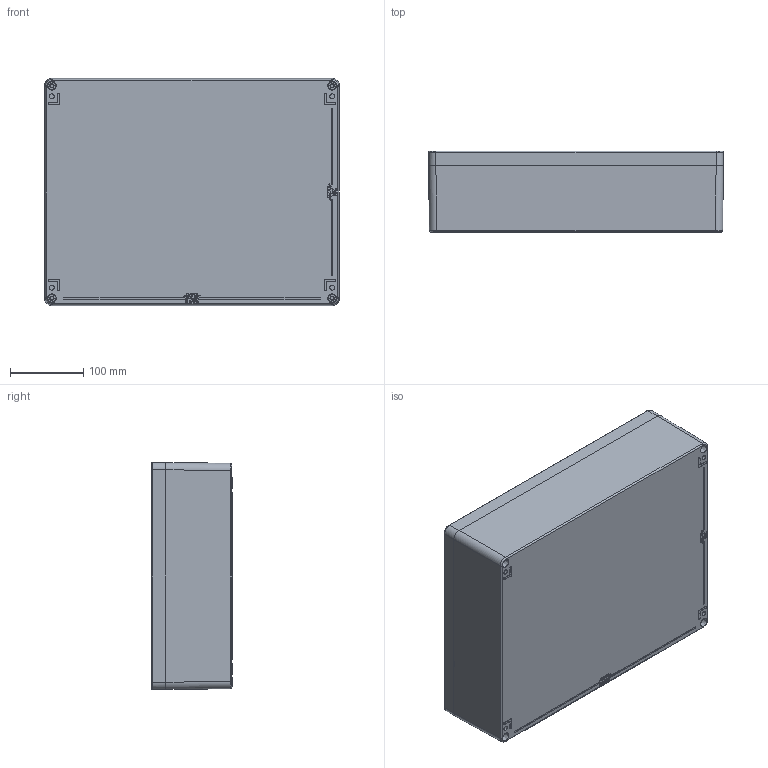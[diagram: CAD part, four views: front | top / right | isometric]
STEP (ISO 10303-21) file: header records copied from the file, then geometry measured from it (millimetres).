
FILE_DESCRIPTION((''),'2;1');
FILE_NAME('1450950000_ASM','2024-02-27T11:32:27',('Stephanie.Hoppe'),(''),'CREO PARAMETRIC BY PTC INC, 2022124','CREO PARAMETRIC BY PTC INC, 2022124','');
FILE_SCHEMA(('AUTOMOTIVE_DESIGN { 1 0 10303 214 1 1 1 1 }'));
Products named in the file (11): 9301050000_AF0; 9261018000; 9601349000_ASM; 9601618000_ASM; 9302050000_AF0; 9261116000; 9611158000_ASM; DICHTUNG_CA450_460; 9611365000_ASM; 9261021000; 1450950000_ASM
Assembly tree (16 placements, depth 4):
  1450950000_ASM
    9601618000_ASM
      9601349000_ASM
        9301050000_AF0
        9261018000  x4
    9611365000_ASM
      9611158000_ASM
        9302050000_AF0
        9261116000
      DICHTUNG_CA450_460
    9261021000  x4
Bounding box: 402.35 x 110.9 x 309.85 mm (x, y, z)
Volume: 2089004.6 mm3; surface area: 859911.6 mm2
Topology: 18 solids, 38 shells, 2126 faces, 5811 edges, 3823 vertices
Faces by surface type: plane 1259, cylinder 409, cone 271, torus 112, bspline 70, sphere 5
Entity records: 100848 total; most frequent: CARTESIAN_POINT 22904, DIRECTION 9467, ORIENTED_EDGE 8862, PRESENTATION_STYLE_ASSIGNMENT 6469, STYLED_ITEM 6464, CURVE_STYLE 5037, EDGE_CURVE 4445, VECTOR 3458
